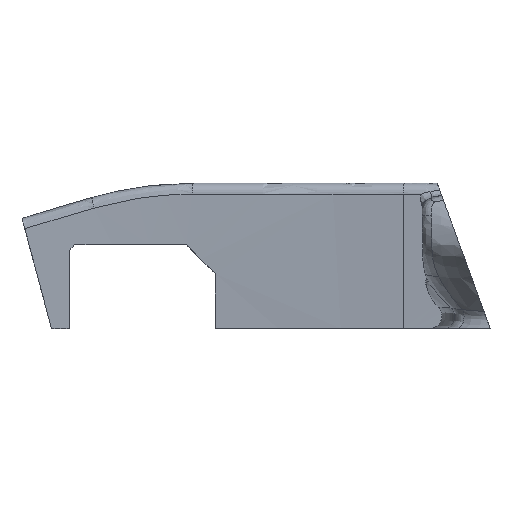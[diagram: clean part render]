
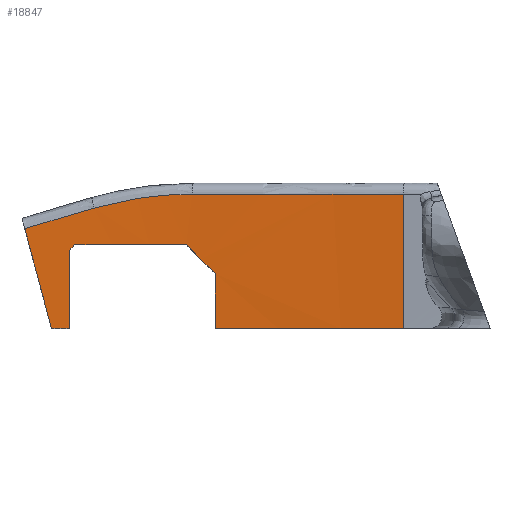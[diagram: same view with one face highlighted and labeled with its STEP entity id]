
A CAD part, top view. The second image highlights one B-rep face of the part: STEP entity #18847.
In plain terms, the highlighted cylindrical face has radius 940 mm (diameter 1880 mm), a partial arc.
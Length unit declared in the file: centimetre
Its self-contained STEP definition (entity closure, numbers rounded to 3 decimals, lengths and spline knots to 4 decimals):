
#683=CYLINDRICAL_SURFACE('',#19454,94.);
#740=ELLIPSE('',#19417,132.9361,94.);
#743=ELLIPSE('',#19453,363.1881,94.);
#744=ELLIPSE('',#19456,132.9361,94.);
#1767=FACE_OUTER_BOUND('',#2876,.T.);
#2876=EDGE_LOOP('',(#17034,#17035,#17036,#17037,#17038,#17039,#17040,#17041,
#17042,#17043,#17044,#17045));
#4371=LINE('',#37666,#5860);
#4404=LINE('',#37804,#5893);
#4410=LINE('',#37830,#5899);
#5860=VECTOR('',#21855,1.);
#5893=VECTOR('',#21936,1.);
#5899=VECTOR('',#21970,1.);
#5996=B_SPLINE_CURVE_WITH_KNOTS('',3,(#23130,#23131,#23132,#23133),
 .UNSPECIFIED.,.F.,.F.,(4,4),(7.0265,9.0236),
 .UNSPECIFIED.);
#7053=B_SPLINE_CURVE_WITH_KNOTS('',3,(#37831,#37832,#37833,#37834),
 .UNSPECIFIED.,.F.,.F.,(4,4),(0.,2.7371),
 .UNSPECIFIED.);
#7112=CIRCLE('',#18984,94.);
#7162=CIRCLE('',#19415,94.);
#7166=CIRCLE('',#19424,94.);
#7172=CIRCLE('',#19455,94.);
#7260=VERTEX_POINT('',#23102);
#7261=VERTEX_POINT('',#23104);
#7262=VERTEX_POINT('',#23127);
#7263=VERTEX_POINT('',#23129);
#8940=VERTEX_POINT('',#37654);
#8941=VERTEX_POINT('',#37656);
#8942=VERTEX_POINT('',#37660);
#8943=VERTEX_POINT('',#37664);
#8947=VERTEX_POINT('',#37727);
#8970=VERTEX_POINT('',#37801);
#8971=VERTEX_POINT('',#37803);
#8977=VERTEX_POINT('',#37824);
#9154=EDGE_CURVE('',#7260,#7261,#7112,.T.);
#9157=EDGE_CURVE('',#7262,#7263,#5996,.T.);
#11649=EDGE_CURVE('',#8941,#8940,#7162,.T.);
#11652=EDGE_CURVE('',#8942,#8940,#740,.T.);
#11654=EDGE_CURVE('',#8942,#8943,#4371,.T.);
#11661=EDGE_CURVE('',#8943,#8947,#7166,.T.);
#11697=EDGE_CURVE('',#8971,#8970,#4404,.T.);
#11707=EDGE_CURVE('',#7262,#8977,#743,.T.);
#11708=EDGE_CURVE('',#8977,#8971,#7172,.T.);
#11709=EDGE_CURVE('',#8941,#8970,#744,.T.);
#11710=EDGE_CURVE('',#8947,#7261,#4410,.T.);
#11711=EDGE_CURVE('',#7263,#7260,#7053,.T.);
#17034=ORIENTED_EDGE('',*,*,#11707,.T.);
#17035=ORIENTED_EDGE('',*,*,#11708,.T.);
#17036=ORIENTED_EDGE('',*,*,#11697,.T.);
#17037=ORIENTED_EDGE('',*,*,#11709,.F.);
#17038=ORIENTED_EDGE('',*,*,#11649,.T.);
#17039=ORIENTED_EDGE('',*,*,#11652,.F.);
#17040=ORIENTED_EDGE('',*,*,#11654,.T.);
#17041=ORIENTED_EDGE('',*,*,#11661,.T.);
#17042=ORIENTED_EDGE('',*,*,#11710,.T.);
#17043=ORIENTED_EDGE('',*,*,#9154,.F.);
#17044=ORIENTED_EDGE('',*,*,#11711,.F.);
#17045=ORIENTED_EDGE('',*,*,#9157,.F.);
#18847=ADVANCED_FACE('',(#1767),#683,.F.);
#18984=AXIS2_PLACEMENT_3D('',#23105,#19632,#19633);
#19415=AXIS2_PLACEMENT_3D('',#37657,#21844,#21845);
#19417=AXIS2_PLACEMENT_3D('',#37662,#21850,#21851);
#19424=AXIS2_PLACEMENT_3D('',#37729,#21866,#21867);
#19453=AXIS2_PLACEMENT_3D('',#37826,#21962,#21963);
#19454=AXIS2_PLACEMENT_3D('',#37827,#21964,#21965);
#19455=AXIS2_PLACEMENT_3D('',#37828,#21966,#21967);
#19456=AXIS2_PLACEMENT_3D('',#37829,#21968,#21969);
#19632=DIRECTION('center_axis',(0.,-1.,0.));
#19633=DIRECTION('ref_axis',(0.121,0.,-0.993));
#21844=DIRECTION('center_axis',(0.,-1.,0.));
#21845=DIRECTION('ref_axis',(-0.03,0.,-1.));
#21850=DIRECTION('center_axis',(0.707,0.707,0.));
#21851=DIRECTION('ref_axis',(-0.707,0.707,0.));
#21855=DIRECTION('',(0.,-1.,0.));
#21866=DIRECTION('center_axis',(0.,-1.,0.));
#21867=DIRECTION('ref_axis',(-0.03,0.,-1.));
#21936=DIRECTION('',(0.,1.,0.));
#21962=DIRECTION('center_axis',(-0.966,-0.259,0.));
#21963=DIRECTION('ref_axis',(-0.259,0.966,0.));
#21964=DIRECTION('center_axis',(0.,-1.,0.));
#21965=DIRECTION('ref_axis',(-0.03,0.,-1.));
#21966=DIRECTION('center_axis',(0.,-1.,0.));
#21967=DIRECTION('ref_axis',(-0.03,0.,-1.));
#21968=DIRECTION('center_axis',(-0.707,0.707,0.));
#21969=DIRECTION('ref_axis',(-0.707,-0.707,0.));
#21970=DIRECTION('',(0.,1.,0.));
#23102=CARTESIAN_POINT('',(-9.6346,4.1,1.6549));
#23104=CARTESIAN_POINT('',(-3.8506,4.1,2.3591));
#23105=CARTESIAN_POINT('Origin',(-18.0973,4.1,95.2732));
#23127=CARTESIAN_POINT('',(-14.226,3.1525,1.353));
#23129=CARTESIAN_POINT('',(-12.3195,3.7185,1.451));
#23130=CARTESIAN_POINT('Ctrl Pts',(-14.226,3.1525,1.353));
#23131=CARTESIAN_POINT('Ctrl Pts',(-13.5914,3.3453,1.3791));
#23132=CARTESIAN_POINT('Ctrl Pts',(-12.9558,3.534,1.4118));
#23133=CARTESIAN_POINT('Ctrl Pts',(-12.3195,3.7185,1.451));
#37654=CARTESIAN_POINT('',(-9.8,2.715,1.6401));
#37656=CARTESIAN_POINT('',(-12.85,2.715,1.4198));
#37657=CARTESIAN_POINT('Origin',(-18.0973,2.715,95.2732));
#37660=CARTESIAN_POINT('',(-9.,1.915,1.7145));
#37662=CARTESIAN_POINT('Origin',(-18.0973,11.0123,95.2732));
#37664=CARTESIAN_POINT('',(-9.,0.415,1.7145));
#37666=CARTESIAN_POINT('',(-9.,0.4,1.7145));
#37727=CARTESIAN_POINT('',(-3.8506,0.415,2.3591));
#37729=CARTESIAN_POINT('Origin',(-18.0973,0.415,95.2732));
#37801=CARTESIAN_POINT('',(-13.,2.565,1.4115));
#37803=CARTESIAN_POINT('',(-13.,0.415,1.4115));
#37804=CARTESIAN_POINT('',(-13.,0.4,1.4115));
#37824=CARTESIAN_POINT('',(-13.4925,0.415,1.3861));
#37826=CARTESIAN_POINT('Origin',(-18.0973,17.5538,95.2732));
#37827=CARTESIAN_POINT('Origin',(-18.0973,0.4,95.2732));
#37828=CARTESIAN_POINT('Origin',(-18.0973,0.415,95.2732));
#37829=CARTESIAN_POINT('Origin',(-18.0973,-2.5323,95.2732));
#37830=CARTESIAN_POINT('',(-3.8506,0.4,2.3591));
#37831=CARTESIAN_POINT('Ctrl Pts',(-12.3195,3.7185,1.451));
#37832=CARTESIAN_POINT('Ctrl Pts',(-11.4473,3.9714,1.5047));
#37833=CARTESIAN_POINT('Ctrl Pts',(-10.5403,4.1,1.5731));
#37834=CARTESIAN_POINT('Ctrl Pts',(-9.6346,4.1,1.6549));
